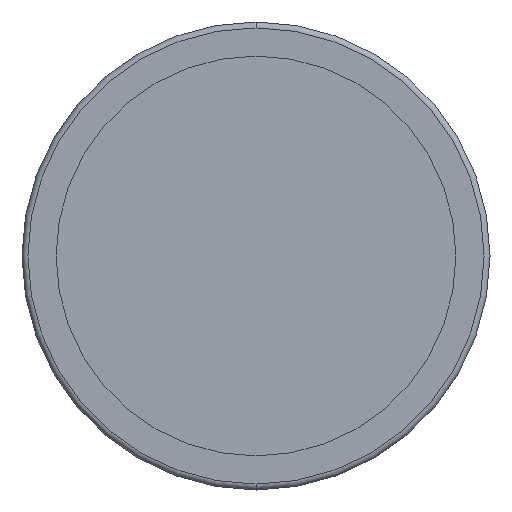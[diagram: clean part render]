
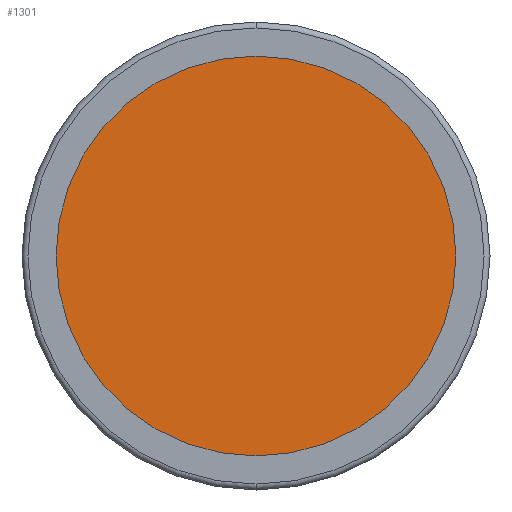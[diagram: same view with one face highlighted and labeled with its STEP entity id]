
A CAD part, front view. The second image highlights one B-rep face of the part: STEP entity #1301.
In plain terms, the highlighted planar face has unit normal (0, -1, 0).
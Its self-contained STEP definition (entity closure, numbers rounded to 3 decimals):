
#175 = DIRECTION ( 'NONE',  ( 0., 0., 1. ) ) ;
#212 = CARTESIAN_POINT ( 'NONE',  ( -33.75, -2., 0. ) ) ;
#616 = EDGE_CURVE ( 'NONE', #1426, #1752, #642, .T. ) ;
#642 = CIRCLE ( 'NONE', #2204, 33.75 ) ;
#686 = FACE_OUTER_BOUND ( 'NONE', #1669, .T. ) ;
#701 = CIRCLE ( 'NONE', #2916, 33.75 ) ;
#879 = ORIENTED_EDGE ( 'NONE', *, *, #616, .F. ) ;
#888 = DIRECTION ( 'NONE',  ( 0., 1., 0. ) ) ;
#950 = CARTESIAN_POINT ( 'NONE',  ( 0., -2., 0. ) ) ;
#991 = CARTESIAN_POINT ( 'NONE',  ( 0., -2., 33.75 ) ) ;
#1010 = EDGE_CURVE ( 'NONE', #1752, #1426, #701, .T. ) ;
#1041 = DIRECTION ( 'NONE',  ( 0., 0., 1. ) ) ;
#1252 = CARTESIAN_POINT ( 'NONE',  ( 0., -2., -33.75 ) ) ;
#1257 = DIRECTION ( 'NONE',  ( 0., 1., 0. ) ) ;
#1301 = ADVANCED_FACE ( 'NONE', ( #686 ), #1433, .T. ) ;
#1389 = CARTESIAN_POINT ( 'NONE',  ( 0., -2., 0. ) ) ;
#1426 = VERTEX_POINT ( 'NONE', #1252 ) ;
#1433 = PLANE ( 'NONE',  #3116 ) ;
#1669 = EDGE_LOOP ( 'NONE', ( #2056, #879 ) ) ;
#1709 = DIRECTION ( 'NONE',  ( 0., -1., 0. ) ) ;
#1752 = VERTEX_POINT ( 'NONE', #991 ) ;
#2056 = ORIENTED_EDGE ( 'NONE', *, *, #1010, .F. ) ;
#2198 = DIRECTION ( 'NONE',  ( 0., 0., -1. ) ) ;
#2204 = AXIS2_PLACEMENT_3D ( 'NONE', #1389, #888, #175 ) ;
#2916 = AXIS2_PLACEMENT_3D ( 'NONE', #950, #1257, #1041 ) ;
#3116 = AXIS2_PLACEMENT_3D ( 'NONE', #212, #1709, #2198 ) ;
